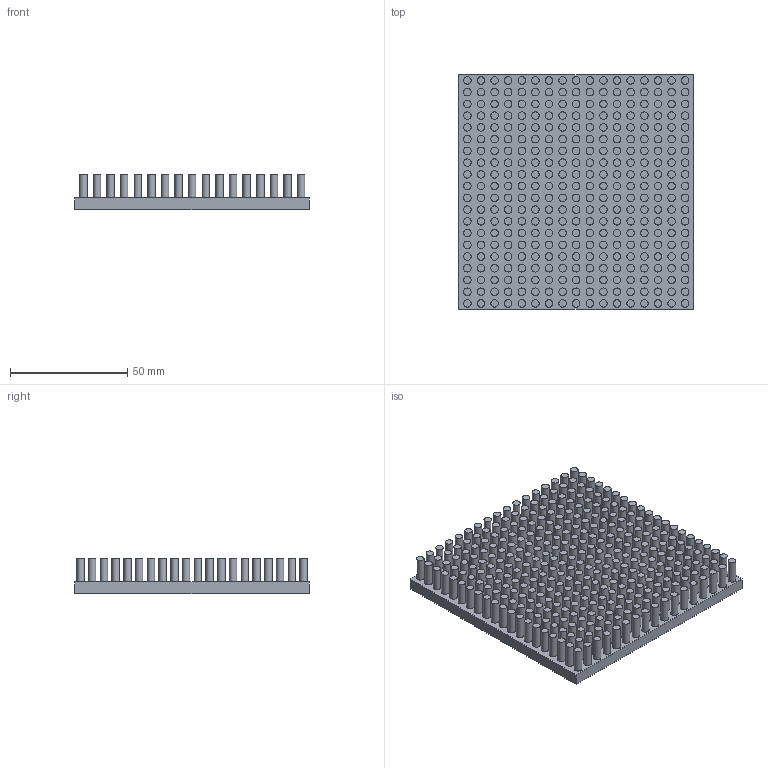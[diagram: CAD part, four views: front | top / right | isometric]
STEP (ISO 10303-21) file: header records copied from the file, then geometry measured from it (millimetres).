
FILE_DESCRIPTION(/* description */ (''),/* implementation_level */ '2;1');
FILE_NAME(/* name */ 'PB100100-B5-H15-P340.stp',/* time_stamp */ '2013-12-30T14:31:25+08:00',/* author */ (''),/* organization */ (''),/* preprocessor_version */ 'ST-DEVELOPER v14',/* originating_system */ 'SIEMENS PLM Software NX 8.0',/* authorisation */ '');
FILE_SCHEMA (('CONFIG_CONTROL_DESIGN'));
Length unit declared in the file: millimetre
Products named in the file (1): PB100100-P340
Bounding box: 100 x 100 x 15 mm (x, y, z)
Volume: 77344.4 mm3; surface area: 56180.5 mm2
Topology: 1 solids, 1 shells, 686 faces, 1032 edges, 688 vertices
Faces by surface type: plane 346, cylinder 340
Full cylindrical faces by diameter (mm): 3.2 x340
Entity records: 13840 total; most frequent: DIRECTION 2746, CARTESIAN_POINT 2067, ORIENTED_EDGE 1384, AXIS2_PLACEMENT_3D 1367, EDGE_LOOP 1366, FACE_BOUND 1021, EDGE_CURVE 692, VERTEX_POINT 688
